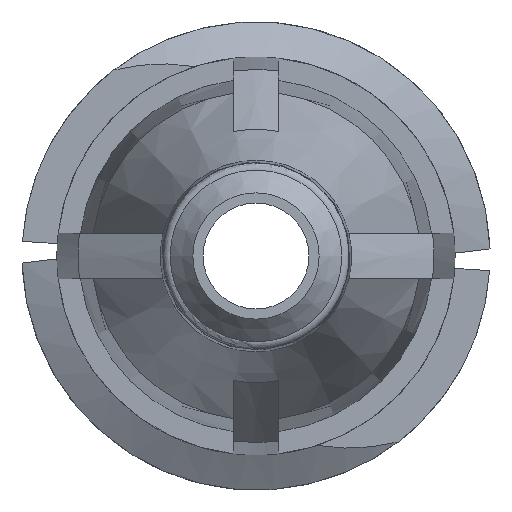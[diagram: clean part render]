
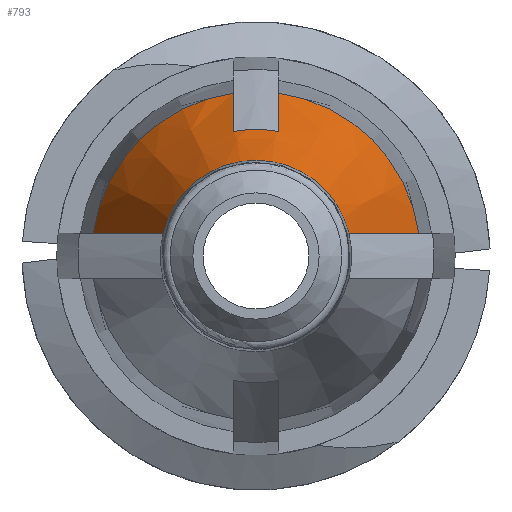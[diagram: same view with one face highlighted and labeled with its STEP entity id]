
A CAD part, front view. The second image highlights one B-rep face of the part: STEP entity #793.
In plain terms, the highlighted conical face has half-angle 20 degrees and reference radius 2.745 mm.
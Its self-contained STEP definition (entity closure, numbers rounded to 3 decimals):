
#21 = EDGE_CURVE ( 'NONE', #989, #269, #1588, .T. ) ;
#22 = EDGE_CURVE ( 'NONE', #1275, #1103, #116, .T. ) ;
#25 = CARTESIAN_POINT ( 'NONE',  ( -1.947, -12.411, 0.381 ) ) ;
#45 = VERTEX_POINT ( 'NONE', #1958 ) ;
#96 = CARTESIAN_POINT ( 'NONE',  ( 0.381, -10.312, 2.719 ) ) ;
#98 = EDGE_LOOP ( 'NONE', ( #1380, #2052, #1670, #2084, #1115, #2077, #455, #1061 ) ) ;
#116 = B_SPLINE_CURVE_WITH_KNOTS ( 'NONE', 3,
 ( #826, #511, #488, #1495 ),
 .UNSPECIFIED., .F., .F.,
 ( 4, 4 ),
 ( 0.003, 0.007 ),
 .UNSPECIFIED. ) ;
#176 = CARTESIAN_POINT ( 'NONE',  ( -1.554, -13.458, 0.381 ) ) ;
#194 = CARTESIAN_POINT ( 'NONE',  ( 0.381, -11.463, 2.295 ) ) ;
#269 = VERTEX_POINT ( 'NONE', #1187 ) ;
#285 = DIRECTION ( 'NONE',  ( 0., 1., 0. ) ) ;
#320 = B_SPLINE_CURVE_WITH_KNOTS ( 'NONE', 3,
 ( #1771, #1515, #194, #1351 ),
 .UNSPECIFIED., .F., .F.,
 ( 4, 4 ),
 ( 0.003, 0.005 ),
 .UNSPECIFIED. ) ;
#352 = CARTESIAN_POINT ( 'NONE',  ( 2.719, -10.312, 0.381 ) ) ;
#399 = CARTESIAN_POINT ( 'NONE',  ( 1.554, -13.458, 0.381 ) ) ;
#401 = CARTESIAN_POINT ( 'NONE',  ( 0., -10.312, 0. ) ) ;
#455 = ORIENTED_EDGE ( 'NONE', *, *, #21, .T. ) ;
#456 = CARTESIAN_POINT ( 'NONE',  ( 0., -10.312, 0. ) ) ;
#482 = DIRECTION ( 'NONE',  ( 0., 1., 0. ) ) ;
#488 = CARTESIAN_POINT ( 'NONE',  ( 1.947, -12.411, 0.381 ) ) ;
#511 = CARTESIAN_POINT ( 'NONE',  ( 2.333, -11.362, 0.381 ) ) ;
#530 = AXIS2_PLACEMENT_3D ( 'NONE', #624, #1126, #807 ) ;
#616 = EDGE_CURVE ( 'NONE', #989, #45, #1216, .T. ) ;
#624 = CARTESIAN_POINT ( 'NONE',  ( 0., -13.458, 0. ) ) ;
#626 = CARTESIAN_POINT ( 'NONE',  ( -0.381, -11.463, 2.295 ) ) ;
#628 = EDGE_CURVE ( 'NONE', #2040, #45, #1695, .T. ) ;
#793 = ADVANCED_FACE ( 'NONE', ( #1861 ), #1111, .T. ) ;
#800 = CARTESIAN_POINT ( 'NONE',  ( -0.381, -10.312, 2.719 ) ) ;
#807 = DIRECTION ( 'NONE',  ( 1., 0., 0. ) ) ;
#808 = CIRCLE ( 'NONE', #1039, 2.745 ) ;
#826 = CARTESIAN_POINT ( 'NONE',  ( 2.719, -10.312, 0.381 ) ) ;
#847 = EDGE_CURVE ( 'NONE', #269, #1103, #1494, .T. ) ;
#871 = EDGE_CURVE ( 'NONE', #1136, #1275, #808, .T. ) ;
#872 = AXIS2_PLACEMENT_3D ( 'NONE', #456, #285, #1622 ) ;
#890 = DIRECTION ( 'NONE',  ( 0., 1., 0. ) ) ;
#972 = EDGE_CURVE ( 'NONE', #1136, #1840, #320, .T. ) ;
#989 = VERTEX_POINT ( 'NONE', #1323 ) ;
#1002 = CARTESIAN_POINT ( 'NONE',  ( -2.333, -11.362, 0.381 ) ) ;
#1039 = AXIS2_PLACEMENT_3D ( 'NONE', #2072, #482, #1758 ) ;
#1061 = ORIENTED_EDGE ( 'NONE', *, *, #847, .T. ) ;
#1103 = VERTEX_POINT ( 'NONE', #399 ) ;
#1104 = CARTESIAN_POINT ( 'NONE',  ( -0.381, -10.888, 2.507 ) ) ;
#1111 = CONICAL_SURFACE ( 'NONE', #2028, 2.745, 0.349 ) ;
#1115 = ORIENTED_EDGE ( 'NONE', *, *, #628, .T. ) ;
#1126 = DIRECTION ( 'NONE',  ( 0., 1., 0. ) ) ;
#1136 = VERTEX_POINT ( 'NONE', #96 ) ;
#1187 = CARTESIAN_POINT ( 'NONE',  ( -1.554, -13.458, 0.381 ) ) ;
#1216 = CIRCLE ( 'NONE', #872, 2.745 ) ;
#1275 = VERTEX_POINT ( 'NONE', #352 ) ;
#1323 = CARTESIAN_POINT ( 'NONE',  ( -2.719, -10.312, 0.381 ) ) ;
#1324 = AXIS2_PLACEMENT_3D ( 'NONE', #1392, #1547, #1877 ) ;
#1351 = CARTESIAN_POINT ( 'NONE',  ( 0.381, -12.038, 2.082 ) ) ;
#1380 = ORIENTED_EDGE ( 'NONE', *, *, #22, .F. ) ;
#1392 = CARTESIAN_POINT ( 'NONE',  ( 0., -12.038, 0. ) ) ;
#1413 = EDGE_CURVE ( 'NONE', #1840, #2040, #1968, .T. ) ;
#1494 = CIRCLE ( 'NONE', #530, 1.6 ) ;
#1495 = CARTESIAN_POINT ( 'NONE',  ( 1.554, -13.458, 0.381 ) ) ;
#1515 = CARTESIAN_POINT ( 'NONE',  ( 0.381, -10.888, 2.507 ) ) ;
#1547 = DIRECTION ( 'NONE',  ( 0., -1., 0. ) ) ;
#1552 = DIRECTION ( 'NONE',  ( 1., 0., 0. ) ) ;
#1588 = B_SPLINE_CURVE_WITH_KNOTS ( 'NONE', 3,
 ( #1980, #1002, #25, #176 ),
 .UNSPECIFIED., .F., .F.,
 ( 4, 4 ),
 ( 0.003, 0.007 ),
 .UNSPECIFIED. ) ;
#1622 = DIRECTION ( 'NONE',  ( 1., 0., 0. ) ) ;
#1667 = CARTESIAN_POINT ( 'NONE',  ( -0.381, -12.038, 2.082 ) ) ;
#1670 = ORIENTED_EDGE ( 'NONE', *, *, #972, .T. ) ;
#1695 = B_SPLINE_CURVE_WITH_KNOTS ( 'NONE', 3,
 ( #1941, #626, #1104, #800 ),
 .UNSPECIFIED., .F., .F.,
 ( 4, 4 ),
 ( 0.002, 0.004 ),
 .UNSPECIFIED. ) ;
#1758 = DIRECTION ( 'NONE',  ( 1., 0., 0. ) ) ;
#1771 = CARTESIAN_POINT ( 'NONE',  ( 0.381, -10.312, 2.719 ) ) ;
#1840 = VERTEX_POINT ( 'NONE', #1920 ) ;
#1861 = FACE_OUTER_BOUND ( 'NONE', #98, .T. ) ;
#1877 = DIRECTION ( 'NONE',  ( -1., 0., 0. ) ) ;
#1920 = CARTESIAN_POINT ( 'NONE',  ( 0.381, -12.038, 2.082 ) ) ;
#1941 = CARTESIAN_POINT ( 'NONE',  ( -0.381, -12.038, 2.082 ) ) ;
#1958 = CARTESIAN_POINT ( 'NONE',  ( -0.381, -10.312, 2.719 ) ) ;
#1968 = CIRCLE ( 'NONE', #1324, 2.117 ) ;
#1980 = CARTESIAN_POINT ( 'NONE',  ( -2.719, -10.312, 0.381 ) ) ;
#2028 = AXIS2_PLACEMENT_3D ( 'NONE', #401, #890, #1552 ) ;
#2040 = VERTEX_POINT ( 'NONE', #1667 ) ;
#2052 = ORIENTED_EDGE ( 'NONE', *, *, #871, .F. ) ;
#2072 = CARTESIAN_POINT ( 'NONE',  ( 0., -10.312, 0. ) ) ;
#2077 = ORIENTED_EDGE ( 'NONE', *, *, #616, .F. ) ;
#2084 = ORIENTED_EDGE ( 'NONE', *, *, #1413, .T. ) ;
